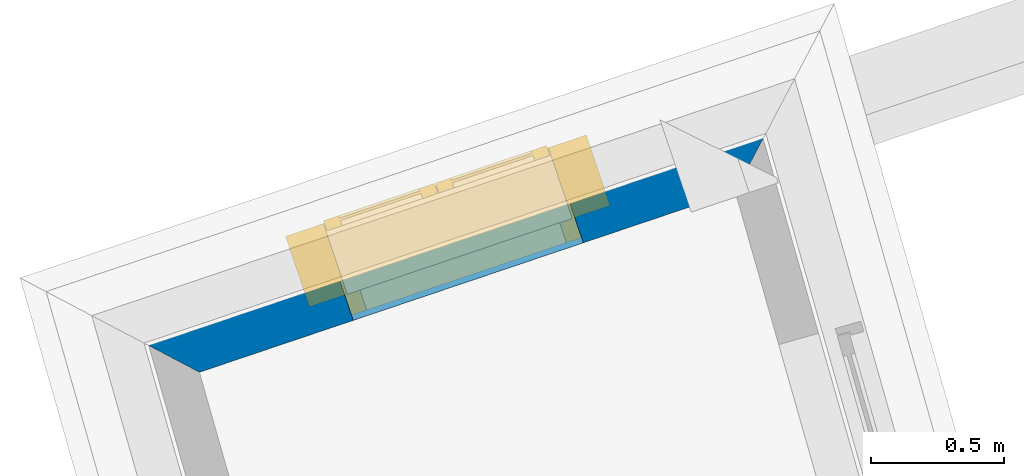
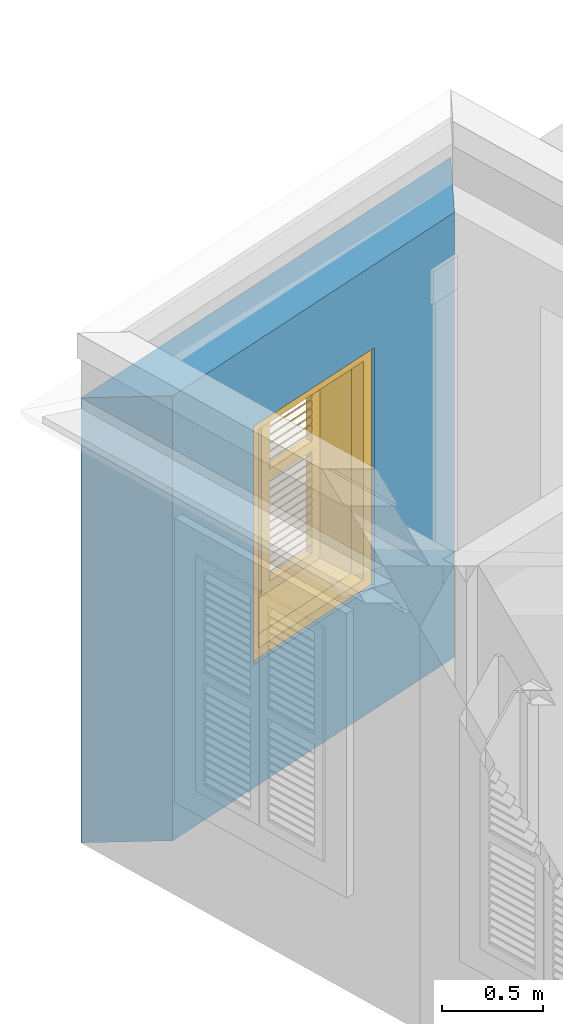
# One storey, part 9 of 13: 1 wall, 1 window, 1 opening.
"""IFC4 building model written with IfcOpenShell, lengths in metres."""

from ifc_helpers import new_model, si_unit, frame, origin, origin_with_axes, place, context, subcontext, project, spatial, polyline, outline, extrude, faceted_brep, source, transform, mapped, material, layer, layer_set, layer_usage, type_object, type_shapes, element, fill, save


model = new_model("IFC4")

# Units and contexts
model_context = context("Model", 3, world=origin_with_axes())
body_context = subcontext(model_context, "Body", "Model", "MODEL_VIEW")
ifc_project = project(units=[si_unit("PLANEANGLEUNIT", "RADIAN"), si_unit("MASSUNIT", "GRAM", prefix="KILO"), si_unit("FORCEUNIT", "NEWTON", prefix="KILO"), si_unit("LENGTHUNIT", "METRE"), si_unit("AREAUNIT", "SQUARE_METRE"), si_unit("VOLUMEUNIT", "CUBIC_METRE")], contexts=[model_context, model_context])

# Site, building, storey
site_placement = place(None, origin_with_axes())
site = spatial("IfcSite", under=ifc_project, at=site_placement, Name="Site plot-3", CompositionType="ELEMENT")
building_placement = place(None, origin_with_axes())
building = spatial("IfcBuilding", under=site, at=building_placement, Name="Building plot-3", CompositionType="ELEMENT")
storey_placement = place(None, frame((0.0, 0.0, 3.3), z_axis=(0.0, 0.0, 1.0), x_axis=(1.0, 0.0, 0.0)))
storey = spatial("IfcBuildingStorey", under=building, at=storey_placement, Name="plot-3 1", CompositionType="ELEMENT", Elevation=3.3)

# Wall, opening, window
ifc_material = material(Name="Masonry")
ifc_layer = layer(ifc_material, 0.33, ventilated=False)
ifc_layer_set = layer_set([ifc_layer], Name="exterior_0.08_0.25")
ifc_layer_usage = layer_usage(ifc_layer_set, "AXIS2", "POSITIVE", -0.25)
wall_type = type_object("IfcWallType", Name="exterior_0.08_0.25", PredefinedType="SOLIDWALL", material=ifc_layer_set)
wall_placement = place(storey_placement, frame((9.02385077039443, 28.7734190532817, 0.0), z_axis=(0.0, 0.0, 1.0), x_axis=(-0.947598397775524, -0.319464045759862, 0.0)))
wall = element("IfcWall", 1, at=wall_placement, inside=storey, type_object=wall_type, material=ifc_layer_usage, Name="exterior", context=body_context, shape_type="SweptSolid", body=[
    extrude(outline(polyline([(0.0839371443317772, 0.0799999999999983), (-0.262303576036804, -0.249999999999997), (2.51770839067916, -0.249999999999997), (2.20318732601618, 0.0800000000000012), (0.0839371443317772, 0.0799999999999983)])), origin_with_axes(), (0.0, 0.0, 1.0), 2.7),
])
opening_placement = place(wall_placement, frame((0.684717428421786, 0.0, 0.75)))
opening = element("IfcOpeningElement", 2, at=opening_placement, cuts=wall, Name="My Opening", ObjectType="Opening", context=body_context, shape_type="SweptSolid", body=[
    extrude(outline(polyline([(0.0, -0.27), (0.909999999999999, -0.270000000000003), (0.909999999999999, 1.1), (0.0, 1.1), (0.0, -0.27)])), origin_with_axes(), (0.0, 0.0, 1.0), 1.445),
])
window_type = type_object("IfcWindowType", Name="shuttered_shorter", PartitioningType="DOUBLE_PANEL_HORIZONTAL", PredefinedType="NOTDEFINED")
shared_shape = source(origin(), body_context, "Body", "Brep", [
    faceted_brep([(0.393, 0.0, 0.622), (0.074, 0.0, 0.622), (0.074, 0.0, 0.632), (0.393, 0.0, 0.632), (0.074, -0.04, 0.592), (0.393, -0.04, 0.592), (0.393, -0.04, 0.582), (0.074, -0.04, 0.582), (0.517, 0.0, 0.682), (0.836, 0.0, 0.682), (0.836, 0.0, 0.672), (0.517, 0.0, 0.672), (0.517, -0.04, 0.642), (0.836, -0.04, 0.642), (0.836, -0.04, 0.632), (0.517, -0.04, 0.632), (0.517, 0.0, 0.632), (0.836, 0.0, 0.632), (0.836, 0.0, 0.622), (0.517, 0.0, 0.622), (0.517, -0.04, 0.592), (0.836, -0.04, 0.592), (0.836, -0.04, 0.582), (0.517, -0.04, 0.582), (0.517, 0.0, 0.232), (0.836, 0.0, 0.232), (0.836, 0.0, 0.222), (0.517, 0.0, 0.222), (0.517, -0.04, 0.192), (0.836, -0.04, 0.192), (0.836, -0.04, 0.182), (0.517, -0.04, 0.182), (0.517, 0.0, 0.532), (0.836, 0.0, 0.532), (0.836, 0.0, 0.522), (0.517, 0.0, 0.522), (0.517, -0.04, 0.492), (0.836, -0.04, 0.492), (0.836, -0.04, 0.482), (0.517, -0.04, 0.482), (0.517, 0.0, 0.482), (0.836, 0.0, 0.482), (0.836, 0.0, 0.472), (0.517, 0.0, 0.472), (0.517, -0.04, 0.442), (0.836, -0.04, 0.442), (0.836, -0.04, 0.432), (0.517, -0.04, 0.432), (0.517, 0.0, 0.582), (0.836, 0.0, 0.582), (0.836, 0.0, 0.572), (0.517, 0.0, 0.572), (0.517, -0.04, 0.542), (0.836, -0.04, 0.542), (0.836, -0.04, 0.532), (0.517, -0.04, 0.532), (0.517, 0.0, 0.182), (0.836, 0.0, 0.182), (0.836, 0.0, 0.172), (0.517, 0.0, 0.172), (0.517, -0.04, 0.142), (0.836, -0.04, 0.142), (0.836, -0.04, 0.132), (0.517, -0.04, 0.132), (0.517, 0.0, 0.382), (0.836, 0.0, 0.382), (0.836, 0.0, 0.372), (0.517, 0.0, 0.372), (0.517, -0.04, 0.342), (0.836, -0.04, 0.342), (0.836, -0.04, 0.332), (0.517, -0.04, 0.332), (0.517, 0.0, 0.432), (0.836, 0.0, 0.432), (0.836, 0.0, 0.422), (0.517, 0.0, 0.422), (0.517, -0.04, 0.392), (0.836, -0.04, 0.392), (0.836, -0.04, 0.382), (0.517, -0.04, 0.382), (0.517, 0.0, 0.132), (0.836, 0.0, 0.132), (0.836, 0.0, 0.122), (0.517, 0.0, 0.122), (0.517, -0.04, 0.092), (0.836, -0.04, 0.092), (0.836, -0.04, 0.082), (0.517, -0.04, 0.082), (0.517, 0.0, 0.282), (0.836, 0.0, 0.282), (0.836, 0.0, 0.272), (0.517, 0.0, 0.272), (0.517, -0.04, 0.242), (0.836, -0.04, 0.242), (0.836, -0.04, 0.232), (0.517, -0.04, 0.232), (0.517, 0.0, 0.332), (0.836, 0.0, 0.332), (0.836, 0.0, 0.322), (0.517, 0.0, 0.322), (0.517, -0.04, 0.292), (0.836, -0.04, 0.292), (0.836, -0.04, 0.282), (0.517, -0.04, 0.282), (0.517, 0.0, 1.362667), (0.836, 0.0, 1.362667), (0.836, 0.0, 1.352667), (0.517, 0.0, 1.352667), (0.517, -0.04, 1.322667), (0.836, -0.04, 1.322667), (0.836, -0.04, 1.312667), (0.517, -0.04, 1.312667), (0.517, 0.0, 1.312667), (0.836, 0.0, 1.312667), (0.836, 0.0, 1.302667), (0.517, 0.0, 1.302667), (0.517, -0.04, 1.272667), (0.836, -0.04, 1.272667), (0.836, -0.04, 1.262667), (0.517, -0.04, 1.262667), (0.517, 0.0, 0.912667), (0.836, 0.0, 0.912667), (0.836, 0.0, 0.902667), (0.517, 0.0, 0.902667), (0.517, -0.04, 0.872667), (0.836, -0.04, 0.872667), (0.836, -0.04, 0.862667), (0.517, -0.04, 0.862667), (0.517, 0.0, 1.212667), (0.836, 0.0, 1.212667), (0.836, 0.0, 1.202667), (0.517, 0.0, 1.202667), (0.517, -0.04, 1.172667), (0.836, -0.04, 1.172667), (0.836, -0.04, 1.162667), (0.517, -0.04, 1.162667), (0.517, 0.0, 1.162667), (0.836, 0.0, 1.162667), (0.836, 0.0, 1.152667), (0.517, 0.0, 1.152667), (0.517, -0.04, 1.122667), (0.836, -0.04, 1.122667), (0.836, -0.04, 1.112667), (0.517, -0.04, 1.112667), (0.517, 0.0, 1.262667), (0.836, 0.0, 1.262667), (0.836, 0.0, 1.252667), (0.517, 0.0, 1.252667), (0.517, -0.04, 1.222667), (0.836, -0.04, 1.222667), (0.836, -0.04, 1.212667), (0.517, -0.04, 1.212667), (0.517, 0.0, 0.862667), (0.836, 0.0, 0.862667), (0.836, 0.0, 0.852667), (0.517, 0.0, 0.852667), (0.517, -0.04, 0.822667), (0.836, -0.04, 0.822667), (0.836, -0.04, 0.812667), (0.517, -0.04, 0.812667), (0.517, 0.0, 1.062667), (0.836, 0.0, 1.062667), (0.836, 0.0, 1.052667), (0.517, 0.0, 1.052667), (0.517, -0.04, 1.022667), (0.836, -0.04, 1.022667), (0.836, -0.04, 1.012667), (0.517, -0.04, 1.012667), (0.517, 0.0, 1.112667), (0.836, 0.0, 1.112667), (0.836, 0.0, 1.102667), (0.517, 0.0, 1.102667), (0.517, -0.04, 1.072667), (0.836, -0.04, 1.072667), (0.836, -0.04, 1.062667), (0.517, -0.04, 1.062667), (0.517, 0.0, 0.812667), (0.836, 0.0, 0.812667), (0.836, 0.0, 0.802667), (0.517, 0.0, 0.802667), (0.517, -0.04, 0.772667), (0.836, -0.04, 0.772667), (0.836, -0.04, 0.762667), (0.517, -0.04, 0.762667), (0.517, 0.0, 0.962667), (0.836, 0.0, 0.962667), (0.836, 0.0, 0.952667), (0.517, 0.0, 0.952667), (0.517, -0.04, 0.922667), (0.836, -0.04, 0.922667), (0.836, -0.04, 0.912667), (0.517, -0.04, 0.912667), (0.517, 0.0, 1.012667), (0.836, 0.0, 1.012667), (0.836, 0.0, 1.002667), (0.517, 0.0, 1.002667), (0.517, -0.04, 0.972667), (0.836, -0.04, 0.972667), (0.836, -0.04, 0.962667), (0.517, -0.04, 0.962667), (0.074, 0.0, 0.682), (0.393, 0.0, 0.682), (0.393, 0.0, 0.672), (0.074, 0.0, 0.672), (0.074, -0.04, 0.642), (0.393, -0.04, 0.642), (0.393, -0.04, 0.632), (0.074, -0.04, 0.632), (0.074, 0.0, 0.232), (0.393, 0.0, 0.232), (0.393, 0.0, 0.222), (0.074, 0.0, 0.222), (0.074, -0.04, 0.192), (0.393, -0.04, 0.192), (0.393, -0.04, 0.182), (0.074, -0.04, 0.182), (0.074, 0.0, 0.532), (0.393, 0.0, 0.532), (0.393, 0.0, 0.522), (0.074, 0.0, 0.522), (0.074, -0.04, 0.492), (0.393, -0.04, 0.492), (0.393, -0.04, 0.482), (0.074, -0.04, 0.482), (0.074, 0.0, 0.482), (0.393, 0.0, 0.482), (0.393, 0.0, 0.472), (0.074, 0.0, 0.472), (0.074, -0.04, 0.442), (0.393, -0.04, 0.442), (0.393, -0.04, 0.432), (0.074, -0.04, 0.432), (0.074, 0.0, 0.582), (0.393, 0.0, 0.582), (0.393, 0.0, 0.572), (0.074, 0.0, 0.572), (0.074, -0.04, 0.542), (0.393, -0.04, 0.542), (0.393, -0.04, 0.532), (0.074, -0.04, 0.532), (0.074, 0.0, 0.182), (0.393, 0.0, 0.182), (0.393, 0.0, 0.172), (0.074, 0.0, 0.172), (0.074, -0.04, 0.142), (0.393, -0.04, 0.142), (0.393, -0.04, 0.132), (0.074, -0.04, 0.132), (0.074, 0.0, 0.382), (0.393, 0.0, 0.382), (0.393, 0.0, 0.372), (0.074, 0.0, 0.372), (0.074, -0.04, 0.342), (0.393, -0.04, 0.342), (0.393, -0.04, 0.332), (0.074, -0.04, 0.332), (0.074, 0.0, 0.432), (0.393, 0.0, 0.432), (0.393, 0.0, 0.422), (0.074, 0.0, 0.422), (0.074, -0.04, 0.392), (0.393, -0.04, 0.392), (0.393, -0.04, 0.382), (0.074, -0.04, 0.382), (0.074, 0.0, 0.132), (0.393, 0.0, 0.132), (0.393, 0.0, 0.122), (0.074, 0.0, 0.122), (0.074, -0.04, 0.092), (0.393, -0.04, 0.092), (0.393, -0.04, 0.082), (0.074, -0.04, 0.082), (0.074, 0.0, 0.282), (0.393, 0.0, 0.282), (0.393, 0.0, 0.272), (0.074, 0.0, 0.272), (0.074, -0.04, 0.242), (0.393, -0.04, 0.242), (0.393, -0.04, 0.232), (0.074, -0.04, 0.232), (0.074, 0.0, 0.332), (0.393, 0.0, 0.332), (0.393, 0.0, 0.322), (0.074, 0.0, 0.322), (0.074, -0.04, 0.292), (0.393, -0.04, 0.292), (0.393, -0.04, 0.282), (0.074, -0.04, 0.282), (0.074, 0.0, 1.362667), (0.393, 0.0, 1.362667), (0.393, 0.0, 1.352667), (0.074, 0.0, 1.352667), (0.074, -0.04, 1.322667), (0.393, -0.04, 1.322667), (0.393, -0.04, 1.312667), (0.074, -0.04, 1.312667), (0.074, 0.0, 1.312667), (0.393, 0.0, 1.312667), (0.393, 0.0, 1.302667), (0.074, 0.0, 1.302667), (0.074, -0.04, 1.272667), (0.393, -0.04, 1.272667), (0.393, -0.04, 1.262667), (0.074, -0.04, 1.262667), (0.074, 0.0, 0.912667), (0.393, 0.0, 0.912667), (0.393, 0.0, 0.902667), (0.074, 0.0, 0.902667), (0.074, -0.04, 0.872667), (0.393, -0.04, 0.872667), (0.393, -0.04, 0.862667), (0.074, -0.04, 0.862667), (0.074, 0.0, 1.212667), (0.393, 0.0, 1.212667), (0.393, 0.0, 1.202667), (0.074, 0.0, 1.202667), (0.074, -0.04, 1.172667), (0.393, -0.04, 1.172667), (0.393, -0.04, 1.162667), (0.074, -0.04, 1.162667), (0.074, 0.0, 1.162667), (0.393, 0.0, 1.162667), (0.393, 0.0, 1.152667), (0.074, 0.0, 1.152667), (0.074, -0.04, 1.122667), (0.393, -0.04, 1.122667), (0.393, -0.04, 1.112667), (0.074, -0.04, 1.112667), (0.074, 0.0, 1.262667), (0.393, 0.0, 1.262667), (0.393, 0.0, 1.252667), (0.074, 0.0, 1.252667), (0.074, -0.04, 1.222667), (0.393, -0.04, 1.222667), (0.393, -0.04, 1.212667), (0.074, -0.04, 1.212667), (0.074, 0.0, 0.862667), (0.393, 0.0, 0.862667), (0.393, 0.0, 0.852667), (0.074, 0.0, 0.852667), (0.074, -0.04, 0.822667), (0.393, -0.04, 0.822667), (0.393, -0.04, 0.812667), (0.074, -0.04, 0.812667), (0.074, 0.0, 1.062667), (0.393, 0.0, 1.062667), (0.393, 0.0, 1.052667), (0.074, 0.0, 1.052667), (0.074, -0.04, 1.022667), (0.393, -0.04, 1.022667), (0.393, -0.04, 1.012667), (0.074, -0.04, 1.012667), (0.074, 0.0, 1.112667), (0.393, 0.0, 1.112667), (0.393, 0.0, 1.102667), (0.074, 0.0, 1.102667), (0.074, -0.04, 1.072667), (0.393, -0.04, 1.072667), (0.393, -0.04, 1.062667), (0.074, -0.04, 1.062667), (0.074, 0.0, 0.812667), (0.393, 0.0, 0.812667), (0.393, 0.0, 0.802667), (0.074, 0.0, 0.802667), (0.074, -0.04, 0.772667), (0.393, -0.04, 0.772667), (0.393, -0.04, 0.762667), (0.074, -0.04, 0.762667), (0.074, 0.0, 0.962667), (0.393, 0.0, 0.962667), (0.393, 0.0, 0.952667), (0.074, 0.0, 0.952667), (0.074, -0.04, 0.922667), (0.393, -0.04, 0.922667), (0.393, -0.04, 0.912667), (0.074, -0.04, 0.912667), (0.074, 0.0, 1.012667), (0.393, 0.0, 1.012667), (0.393, 0.0, 1.002667), (0.074, 0.0, 1.002667), (0.074, -0.04, 0.972667), (0.393, -0.04, 0.972667), (0.393, -0.04, 0.962667), (0.074, -0.04, 0.962667), (0.517, -0.04, 0.072), (0.457, -0.04, 0.012), (0.896, -0.04, 0.012), (0.836, -0.04, 0.072), (0.457, -0.04, 0.692667), (0.517, -0.04, 0.692667), (0.457, 0.0, 0.012), (0.896, 0.0, 0.012), (0.836, -0.04, 0.692667), (0.896, -0.04, 0.692667), (0.836, 0.0, 0.072), (0.517, 0.0, 0.072), (0.457, 0.0, 0.692667), (0.517, 0.0, 0.692667), (0.517, -0.04, 0.752666), (0.457, -0.04, 0.752666), (0.896, 0.0, 0.692667), (0.836, 0.0, 0.692667), (0.836, -0.04, 0.752666), (0.896, -0.04, 0.752666), (0.457, 0.0, 0.752666), (0.457, -0.04, 1.433333), (0.517, -0.04, 1.373333), (0.896, 0.0, 0.752666), (0.836, -0.04, 1.373333), (0.896, -0.04, 1.433333), (0.457, 0.0, 1.433333), (0.517, 0.0, 0.752666), (0.836, 0.0, 0.752666), (0.517, 0.0, 1.373333), (0.896, 0.0, 1.433333), (0.836, 0.0, 1.373333), (0.074, -0.04, 0.072), (0.014, -0.04, 0.012), (0.453, -0.04, 0.012), (0.393, -0.04, 0.072), (0.014, -0.04, 0.692667), (0.074, -0.04, 0.692667), (0.014, 0.0, 0.012), (0.453, 0.0, 0.012), (0.393, -0.04, 0.692667), (0.453, -0.04, 0.692667), (0.393, 0.0, 0.072), (0.074, 0.0, 0.072), (0.014, 0.0, 0.692667), (0.074, 0.0, 0.692667), (0.074, -0.04, 0.752666), (0.014, -0.04, 0.752666), (0.453, 0.0, 0.692667), (0.393, 0.0, 0.692667), (0.393, -0.04, 0.752666), (0.453, -0.04, 0.752666), (0.014, 0.0, 0.752666), (0.014, -0.04, 1.433333), (0.074, -0.04, 1.373333), (0.453, 0.0, 0.752666), (0.393, -0.04, 1.373333), (0.453, -0.04, 1.433333), (0.014, 0.0, 1.433333), (0.074, 0.0, 0.752666), (0.393, 0.0, 0.752666), (0.074, 0.0, 1.373333), (0.453, 0.0, 1.433333), (0.393, 0.0, 1.373333), (0.0, 0.33, 1.445), (0.91, 0.33, 1.445), (0.85, 0.33, 1.385), (0.06, 0.33, 1.385), (0.91, 0.25, 1.445), (0.0, 0.25, 1.445), (0.91, 0.25, 1.445), (0.85, 0.33, 0.06), (0.91, 0.33, 0.0), (0.85, 0.25, 1.385), (0.06, 0.25, 1.385), (0.0, 0.33, 0.0), (0.06, 0.33, 0.06), (0.0, 0.25, 0.0), (0.91, 0.25, 0.0), (0.85, 0.25, 0.06), (0.06, 0.25, 0.06), (1.05, 0.25, 1.585), (-0.14, 0.25, 1.585), (-0.14, -0.03, 1.585), (1.05, -0.03, 1.585), (0.9, -0.03, 1.435), (0.01, -0.03, 1.435), (0.01, 0.25, 1.435), (0.9, 0.25, 1.435), (0.9, 0.25, 0.01), (0.9, -0.03, 0.01), (1.05, -0.03, -0.14), (1.05, 0.25, -0.14), (0.01, -0.03, 0.01), (0.01, 0.25, 0.01), (-0.14, -0.03, -0.14), (-0.14, 0.25, -0.14)], [[[0, 1, 2, 3]], [[4, 5, 3, 2]], [[5, 6, 0, 3]], [[1, 0, 6, 7]], [[2, 1, 7, 4]], [[5, 4, 7, 6]], [[8, 9, 10, 11]], [[12, 13, 9, 8]], [[13, 14, 10, 9]], [[14, 15, 11, 10]], [[15, 12, 8, 11]], [[13, 12, 15, 14]], [[16, 17, 18, 19]], [[20, 21, 17, 16]], [[21, 22, 18, 17]], [[22, 23, 19, 18]], [[23, 20, 16, 19]], [[21, 20, 23, 22]], [[24, 25, 26, 27]], [[28, 29, 25, 24]], [[29, 30, 26, 25]], [[30, 31, 27, 26]], [[31, 28, 24, 27]], [[29, 28, 31, 30]], [[32, 33, 34, 35]], [[36, 37, 33, 32]], [[37, 38, 34, 33]], [[38, 39, 35, 34]], [[39, 36, 32, 35]], [[37, 36, 39, 38]], [[40, 41, 42, 43]], [[44, 45, 41, 40]], [[45, 46, 42, 41]], [[46, 47, 43, 42]], [[47, 44, 40, 43]], [[45, 44, 47, 46]], [[48, 49, 50, 51]], [[52, 53, 49, 48]], [[53, 54, 50, 49]], [[54, 55, 51, 50]], [[55, 52, 48, 51]], [[53, 52, 55, 54]], [[56, 57, 58, 59]], [[60, 61, 57, 56]], [[61, 62, 58, 57]], [[62, 63, 59, 58]], [[63, 60, 56, 59]], [[61, 60, 63, 62]], [[64, 65, 66, 67]], [[68, 69, 65, 64]], [[69, 70, 66, 65]], [[70, 71, 67, 66]], [[71, 68, 64, 67]], [[69, 68, 71, 70]], [[72, 73, 74, 75]], [[76, 77, 73, 72]], [[77, 78, 74, 73]], [[78, 79, 75, 74]], [[79, 76, 72, 75]], [[77, 76, 79, 78]], [[80, 81, 82, 83]], [[84, 85, 81, 80]], [[85, 86, 82, 81]], [[86, 87, 83, 82]], [[87, 84, 80, 83]], [[85, 84, 87, 86]], [[88, 89, 90, 91]], [[92, 93, 89, 88]], [[93, 94, 90, 89]], [[94, 95, 91, 90]], [[95, 92, 88, 91]], [[93, 92, 95, 94]], [[96, 97, 98, 99]], [[100, 101, 97, 96]], [[101, 102, 98, 97]], [[102, 103, 99, 98]], [[103, 100, 96, 99]], [[101, 100, 103, 102]], [[104, 105, 106, 107]], [[108, 109, 105, 104]], [[109, 110, 106, 105]], [[110, 111, 107, 106]], [[111, 108, 104, 107]], [[109, 108, 111, 110]], [[112, 113, 114, 115]], [[116, 117, 113, 112]], [[117, 118, 114, 113]], [[118, 119, 115, 114]], [[119, 116, 112, 115]], [[117, 116, 119, 118]], [[120, 121, 122, 123]], [[124, 125, 121, 120]], [[125, 126, 122, 121]], [[126, 127, 123, 122]], [[127, 124, 120, 123]], [[125, 124, 127, 126]], [[128, 129, 130, 131]], [[132, 133, 129, 128]], [[133, 134, 130, 129]], [[134, 135, 131, 130]], [[135, 132, 128, 131]], [[133, 132, 135, 134]], [[136, 137, 138, 139]], [[140, 141, 137, 136]], [[141, 142, 138, 137]], [[142, 143, 139, 138]], [[139, 143, 140, 136]], [[141, 140, 143, 142]], [[144, 145, 146, 147]], [[148, 149, 145, 144]], [[149, 150, 146, 145]], [[150, 151, 147, 146]], [[151, 148, 144, 147]], [[149, 148, 151, 150]], [[152, 153, 154, 155]], [[156, 157, 153, 152]], [[157, 158, 154, 153]], [[158, 159, 155, 154]], [[159, 156, 152, 155]], [[157, 156, 159, 158]], [[160, 161, 162, 163]], [[164, 165, 161, 160]], [[165, 166, 162, 161]], [[166, 167, 163, 162]], [[167, 164, 160, 163]], [[165, 164, 167, 166]], [[168, 169, 170, 171]], [[172, 173, 169, 168]], [[173, 174, 170, 169]], [[174, 175, 171, 170]], [[175, 172, 168, 171]], [[173, 172, 175, 174]], [[176, 177, 178, 179]], [[180, 181, 177, 176]], [[181, 182, 178, 177]], [[182, 183, 179, 178]], [[183, 180, 176, 179]], [[181, 180, 183, 182]], [[184, 185, 186, 187]], [[188, 189, 185, 184]], [[189, 190, 186, 185]], [[190, 191, 187, 186]], [[191, 188, 184, 187]], [[189, 188, 191, 190]], [[192, 193, 194, 195]], [[196, 197, 193, 192]], [[197, 198, 194, 193]], [[198, 199, 195, 194]], [[199, 196, 192, 195]], [[197, 196, 199, 198]], [[200, 201, 202, 203]], [[204, 205, 201, 200]], [[205, 206, 202, 201]], [[206, 207, 203, 202]], [[207, 204, 200, 203]], [[205, 204, 207, 206]], [[208, 209, 210, 211]], [[212, 213, 209, 208]], [[213, 214, 210, 209]], [[214, 215, 211, 210]], [[215, 212, 208, 211]], [[213, 212, 215, 214]], [[216, 217, 218, 219]], [[220, 221, 217, 216]], [[221, 222, 218, 217]], [[222, 223, 219, 218]], [[223, 220, 216, 219]], [[221, 220, 223, 222]], [[224, 225, 226, 227]], [[228, 229, 225, 224]], [[229, 230, 226, 225]], [[230, 231, 227, 226]], [[231, 228, 224, 227]], [[229, 228, 231, 230]], [[232, 233, 234, 235]], [[236, 237, 233, 232]], [[237, 238, 234, 233]], [[238, 239, 235, 234]], [[239, 236, 232, 235]], [[237, 236, 239, 238]], [[240, 241, 242, 243]], [[244, 245, 241, 240]], [[245, 246, 242, 241]], [[246, 247, 243, 242]], [[247, 244, 240, 243]], [[245, 244, 247, 246]], [[248, 249, 250, 251]], [[252, 253, 249, 248]], [[253, 254, 250, 249]], [[254, 255, 251, 250]], [[255, 252, 248, 251]], [[253, 252, 255, 254]], [[256, 257, 258, 259]], [[260, 261, 257, 256]], [[261, 262, 258, 257]], [[262, 263, 259, 258]], [[263, 260, 256, 259]], [[261, 260, 263, 262]], [[264, 265, 266, 267]], [[268, 269, 265, 264]], [[269, 270, 266, 265]], [[270, 271, 267, 266]], [[271, 268, 264, 267]], [[269, 268, 271, 270]], [[272, 273, 274, 275]], [[276, 277, 273, 272]], [[277, 278, 274, 273]], [[278, 279, 275, 274]], [[279, 276, 272, 275]], [[277, 276, 279, 278]], [[280, 281, 282, 283]], [[284, 285, 281, 280]], [[285, 286, 282, 281]], [[286, 287, 283, 282]], [[287, 284, 280, 283]], [[285, 284, 287, 286]], [[288, 289, 290, 291]], [[292, 293, 289, 288]], [[293, 294, 290, 289]], [[294, 295, 291, 290]], [[295, 292, 288, 291]], [[293, 292, 295, 294]], [[296, 297, 298, 299]], [[300, 301, 297, 296]], [[301, 302, 298, 297]], [[302, 303, 299, 298]], [[303, 300, 296, 299]], [[301, 300, 303, 302]], [[304, 305, 306, 307]], [[308, 309, 305, 304]], [[309, 310, 306, 305]], [[310, 311, 307, 306]], [[311, 308, 304, 307]], [[309, 308, 311, 310]], [[312, 313, 314, 315]], [[316, 317, 313, 312]], [[317, 318, 314, 313]], [[318, 319, 315, 314]], [[319, 316, 312, 315]], [[317, 316, 319, 318]], [[320, 321, 322, 323]], [[324, 325, 321, 320]], [[325, 326, 322, 321]], [[326, 327, 323, 322]], [[327, 324, 320, 323]], [[325, 324, 327, 326]], [[328, 329, 330, 331]], [[332, 333, 329, 328]], [[333, 334, 330, 329]], [[334, 335, 331, 330]], [[335, 332, 328, 331]], [[333, 332, 335, 334]], [[336, 337, 338, 339]], [[340, 341, 337, 336]], [[341, 342, 338, 337]], [[342, 343, 339, 338]], [[343, 340, 336, 339]], [[341, 340, 343, 342]], [[344, 345, 346, 347]], [[348, 349, 345, 344]], [[349, 350, 346, 345]], [[350, 351, 347, 346]], [[351, 348, 344, 347]], [[349, 348, 351, 350]], [[352, 353, 354, 355]], [[356, 357, 353, 352]], [[357, 358, 354, 353]], [[358, 359, 355, 354]], [[359, 356, 352, 355]], [[357, 356, 359, 358]], [[360, 361, 362, 363]], [[364, 365, 361, 360]], [[365, 366, 362, 361]], [[366, 367, 363, 362]], [[367, 364, 360, 363]], [[365, 364, 367, 366]], [[368, 369, 370, 371]], [[372, 373, 369, 368]], [[373, 374, 370, 369]], [[374, 375, 371, 370]], [[375, 372, 368, 371]], [[373, 372, 375, 374]], [[376, 377, 378, 379]], [[380, 381, 377, 376]], [[381, 382, 378, 377]], [[382, 383, 379, 378]], [[383, 380, 376, 379]], [[381, 380, 383, 382]], [[384, 385, 386, 387]], [[388, 385, 384, 389]], [[390, 391, 386, 385]], [[392, 387, 386, 393]], [[384, 387, 394, 395]], [[390, 385, 388, 396]], [[389, 384, 395, 397]], [[389, 398, 399, 388]], [[390, 395, 394, 391]], [[400, 393, 386, 391]], [[387, 392, 401, 394]], [[402, 392, 393, 403]], [[396, 388, 399, 404]], [[390, 396, 397, 395]], [[392, 389, 397, 401]], [[398, 389, 392, 402]], [[405, 399, 398, 406]], [[394, 401, 400, 391]], [[407, 403, 393, 400]], [[408, 402, 403, 409]], [[404, 399, 405, 410]], [[411, 397, 396, 404]], [[397, 411, 412, 401]], [[398, 402, 412, 411]], [[406, 398, 411, 413]], [[405, 406, 408, 409]], [[401, 412, 407, 400]], [[414, 409, 403, 407]], [[402, 408, 415, 412]], [[405, 409, 414, 410]], [[404, 410, 413, 411]], [[408, 406, 413, 415]], [[412, 415, 414, 407]], [[413, 410, 414, 415]], [[416, 417, 418, 419]], [[420, 417, 416, 421]], [[422, 423, 418, 417]], [[424, 419, 418, 425]], [[416, 419, 426, 427]], [[422, 417, 420, 428]], [[421, 416, 427, 429]], [[421, 430, 431, 420]], [[422, 427, 426, 423]], [[432, 425, 418, 423]], [[419, 424, 433, 426]], [[434, 424, 425, 435]], [[428, 420, 431, 436]], [[422, 428, 429, 427]], [[424, 421, 429, 433]], [[430, 421, 424, 434]], [[437, 431, 430, 438]], [[426, 433, 432, 423]], [[439, 435, 425, 432]], [[440, 434, 435, 441]], [[436, 431, 437, 442]], [[443, 429, 428, 436]], [[429, 443, 444, 433]], [[430, 434, 444, 443]], [[438, 430, 443, 445]], [[437, 438, 440, 441]], [[433, 444, 439, 432]], [[446, 441, 435, 439]], [[434, 440, 447, 444]], [[437, 441, 446, 442]], [[436, 442, 445, 443]], [[440, 438, 445, 447]], [[444, 447, 446, 439]], [[445, 442, 446, 447]], [[448, 449, 450, 451]], [[452, 449, 448]], [[448, 453, 454]], [[448, 454, 452]], [[455, 450, 449, 456]], [[451, 450, 457, 458]], [[459, 448, 451, 460]], [[448, 459, 461, 453]], [[454, 453, 458, 457]], [[462, 452, 454]], [[454, 457, 463]], [[454, 463, 462]], [[456, 449, 452, 462]], [[450, 455, 463, 457]], [[456, 459, 460, 455]], [[460, 451, 458, 464]], [[459, 456, 462, 461]], [[464, 458, 453, 461]], [[461, 462, 463, 464]], [[455, 460, 464, 463]], [[465, 466, 467, 468]], [[469, 470, 471, 472]], [[473, 474, 469, 472]], [[465, 468, 475, 476]], [[470, 477, 478, 471]], [[474, 473, 478, 477]], [[474, 477, 479, 475]], [[470, 467, 479, 477]], [[470, 469, 468, 467]], [[474, 475, 468, 469]], [[471, 478, 480, 466]], [[473, 472, 465, 476]], [[473, 476, 480, 478]], [[466, 465, 472, 471]], [[480, 476, 475, 479]], [[480, 479, 467, 466]]]),
])
type_shapes(window_type, [shared_shape])
window_placement = place(storey_placement, frame((8.28875833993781, 28.8105280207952, 0.75), z_axis=(0.0, 0.0, 1.0), x_axis=(-0.862314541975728, -0.290712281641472, 0.0)))
window = element("IfcWindow", 3, at=window_placement, inside=storey, type_object=window_type, Name="bedroom outside window", OverallHeight=1.445, OverallWidth=0.91, context=body_context, shape_type="MappedRepresentation", body=[
    mapped(shared_shape, transform((0.0, 0.0, 0.0), scale=1.0)),
])
fill(opening, window)

save(model, "model.ifc")
